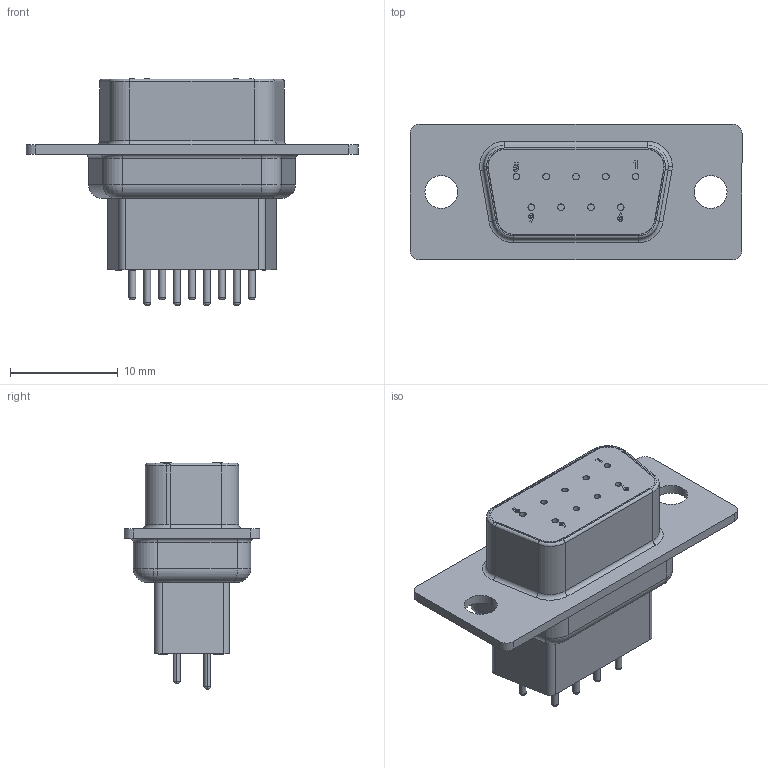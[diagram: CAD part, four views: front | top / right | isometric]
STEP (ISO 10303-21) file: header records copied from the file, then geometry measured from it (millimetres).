
FILE_DESCRIPTION (( 'STEP AP214' ), '1' );
FILE_NAME ('172-009-283.STEP', '2007-07-11T02:57:06', ( 'Tom Plaven' ), ( 'Anapro Tech' ), 'SwSTEP 2.0', 'SolidWorks 2007', '' );
FILE_SCHEMA (( 'AUTOMOTIVE_DESIGN' ));
Length unit declared in the file: inch
Products named in the file (1): 172-009-283
Bounding box: 30.81 x 12.6 x 21.04 mm (x, y, z)
Volume: 2236.8 mm3; surface area: 3171.9 mm2
Topology: 1 solids, 1 shells, 296 faces, 698 edges, 448 vertices
Faces by surface type: plane 108, cylinder 102, bspline 48, torus 38
Entity records: 13665 total; most frequent: CARTESIAN_POINT 4179, ORIENTED_EDGE 1396, DIRECTION 1358, EDGE_CURVE 698, AXIS2_PLACEMENT_3D 511, VERTEX_POINT 448, EDGE_LOOP 344, VECTOR 336
